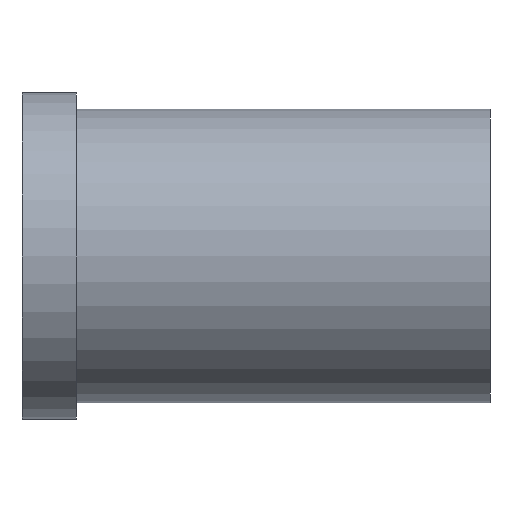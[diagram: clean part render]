
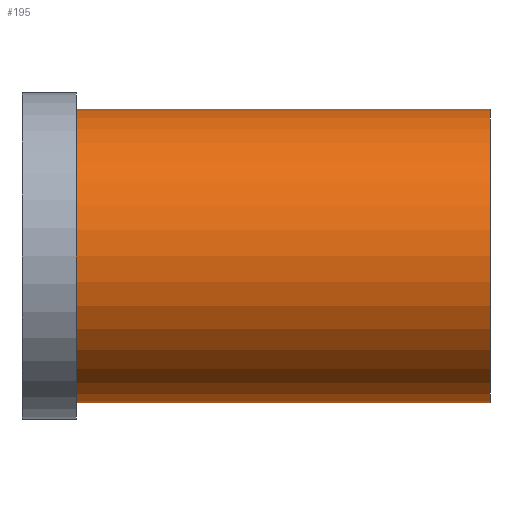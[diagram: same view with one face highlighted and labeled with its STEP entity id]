
A CAD part, left-side view. The second image highlights one B-rep face of the part: STEP entity #195.
In plain terms, the highlighted cylindrical face has radius 27 mm (diameter 54 mm), a full revolution.
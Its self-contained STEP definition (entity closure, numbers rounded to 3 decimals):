
#32=ORIENTED_EDGE('',*,*,#50,.T.);
#33=ORIENTED_EDGE('',*,*,#49,.F.);
#49=EDGE_CURVE('',#59,#59,#69,.T.);
#50=EDGE_CURVE('',#60,#60,#70,.T.);
#59=VERTEX_POINT('',#280);
#60=VERTEX_POINT('',#283);
#69=CIRCLE('',#213,27.);
#70=CIRCLE('',#215,27.);
#82=EDGE_LOOP('',(#32));
#83=EDGE_LOOP('',(#33));
#102=FACE_BOUND('',#82,.T.);
#103=FACE_BOUND('',#83,.T.);
#117=CYLINDRICAL_SURFACE('',#214,27.);
#195=ADVANCED_FACE('',(#102,#103),#117,.T.);
#213=AXIS2_PLACEMENT_3D('',#279,#241,#242);
#214=AXIS2_PLACEMENT_3D('',#281,#243,#244);
#215=AXIS2_PLACEMENT_3D('',#282,#245,#246);
#241=DIRECTION('',(0.,-1.,0.));
#242=DIRECTION('',(0.,0.,-1.));
#243=DIRECTION('',(0.,-1.,0.));
#244=DIRECTION('',(0.,0.,-1.));
#245=DIRECTION('',(0.,-1.,0.));
#246=DIRECTION('',(0.,0.,-1.));
#279=CARTESIAN_POINT('',(0.,0.,0.));
#280=CARTESIAN_POINT('',(0.,0.,-27.));
#281=CARTESIAN_POINT('',(0.,0.,0.));
#282=CARTESIAN_POINT('',(0.,76.,0.));
#283=CARTESIAN_POINT('',(0.,76.,-27.));
